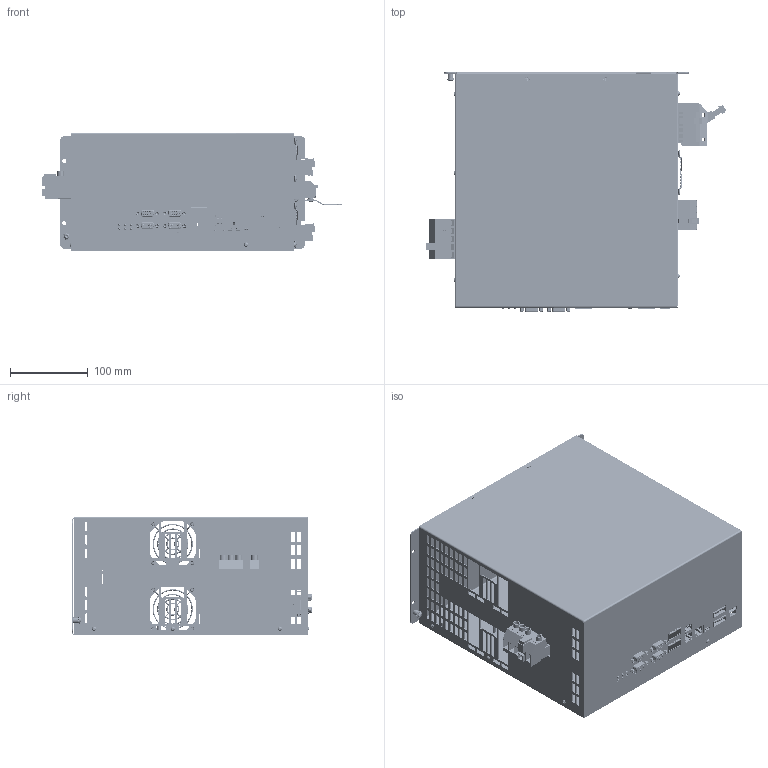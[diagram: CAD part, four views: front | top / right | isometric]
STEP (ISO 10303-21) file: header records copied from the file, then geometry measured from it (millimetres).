
FILE_DESCRIPTION (( 'STEP AP214' ), '1' );
FILE_NAME ('TSP700-40_Rev1-x.STEP', '2022-08-23T19:36:06', ( '' ), ( '' ), 'SwSTEP 2.0', 'SolidWorks 2021', '' );
FILE_SCHEMA (( 'AUTOMOTIVE_DESIGN' ));
Length unit declared in the file: millimetre
Products named in the file (34): Screw-Torx-Senk-M3x4; TCU1-PCBA-Rev4; Abstandsbolzen-I-A-UNC4-40x4.8-6.9; Con-Weidmuller-BVF 7.62HP_04_180MSF BCF_06R SH150; Screw-Fan-Philips-D5x10; FanGuard-Sunon-FG-06; Mech-Standoff-PEM-BSO4-M3-25; Screw-Torx-Linse-M3x5_M3 - L5; Mech-Standoff-PEM-SO4-M4x8; Mech-LockWasher-DIN6798-D4.3; Mech-Screw-M4x4-ISO7380-2-Torx; Mech-Standoff-PEM-BSO4-M3-12; TSP740-CoverTop; TSP740-CoverBase; Con-Weidmuller-1156640000; Con-Weidmuller-1156740000; TSP700-40_Rev1-x
Assembly tree (57 placements, depth 3):
  TSP700-40_Rev1-x
    TSP740-CoverBase
      TSP740-CoverBase
      Mech-Standoff-PEM-BSO4-M3-12  x9
      Mech-Standoff-PEM-SO4-M4x8
      Mech-Standoff-PEM-BSO4-M3-25
      Mech-Standoff-PEM-BSO4-M3-25
      Mech-Standoff-PEM-BSO4-M3-25
      Mech-Standoff-PEM-BSO4-M3-25
      Mech-Standoff-PEM-BSO4-M3-12
      Mech-Standoff-PEM-BSO4-M3-12
      Mech-Standoff-PEM-BSO4-M3-12
    TCU1-PCBA-Rev4
      TCU1-PCBA-Rev4
    Screw-Torx-Senk-M3x4  x4
    FanGuard-Sunon-FG-06  x2
    Screw-Fan-Philips-D5x10  x8
    TSP740-CoverTop
    Screw-Torx-Linse-M3x5_M3 - L5  x5
    Screw-Torx-Linse-M3x5_M3 - L5
    Screw-Torx-Linse-M3x5_M3 - L5
    Mech-LockWasher-DIN6798-D4.3
    Mech-Screw-M4x4-ISO7380-2-Torx
    Abstandsbolzen-I-A-UNC4-40x4.8-6.9
    Abstandsbolzen-I-A-UNC4-40x4.8-6.9
    Abstandsbolzen-I-A-UNC4-40x4.8-6.9
    Abstandsbolzen-I-A-UNC4-40x4.8-6.9
    Abstandsbolzen-I-A-UNC4-40x4.8-6.9
    Abstandsbolzen-I-A-UNC4-40x4.8-6.9
    Abstandsbolzen-I-A-UNC4-40x4.8-6.9
    Abstandsbolzen-I-A-UNC4-40x4.8-6.9
    Con-Weidmuller-BVF 7.62HP_04_180MSF BCF_06R SH150
    Con-Weidmuller-1156640000
    Con-Weidmuller-1156740000  x2
Bounding box: 385.82 x 308.2 x 153.05 mm (x, y, z)
Volume: 522412 mm3; surface area: 792324.5 mm2
Topology: 62 solids, 157 shells, 9927 faces, 27254 edges, 17687 vertices
Faces by surface type: plane 5443, cylinder 3386, cone 470, bspline 320, torus 282, sphere 26
Entity records: 329522 total; most frequent: CARTESIAN_POINT 107005, ORIENTED_EDGE 46802, DIRECTION 31557, EDGE_CURVE 23851, VERTEX_POINT 15551, B_SPLINE_CURVE_WITH_KNOTS 11844, AXIS2_PLACEMENT_3D 11499, EDGE_LOOP 9538
